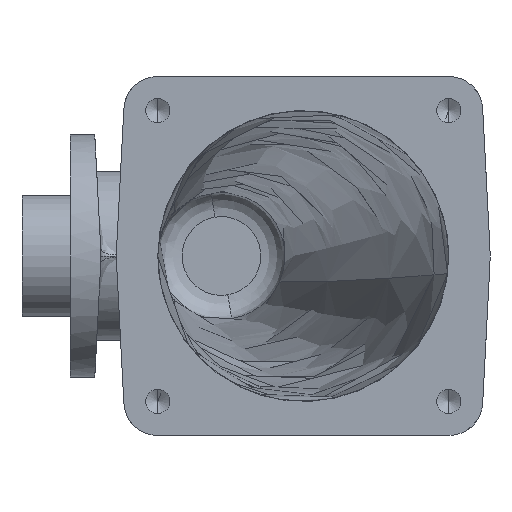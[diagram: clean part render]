
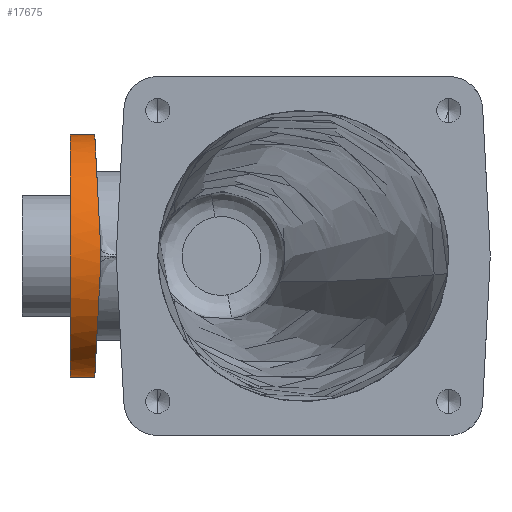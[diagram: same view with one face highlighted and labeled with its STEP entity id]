
A CAD part, left-side view. The second image highlights one B-rep face of the part: STEP entity #17675.
In plain terms, the highlighted cylindrical face has radius 25 mm (diameter 50 mm), a partial arc.
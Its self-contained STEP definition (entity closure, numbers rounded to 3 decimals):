
#18 = AXIS2_PLACEMENT_3D ( 'NONE', #14820, #1231, #7260 ) ;
#429 = ORIENTED_EDGE ( 'NONE', *, *, #4941, .T. ) ;
#842 = LINE ( 'NONE', #6870, #12087 ) ;
#919 = VERTEX_POINT ( 'NONE', #3242 ) ;
#1096 = CARTESIAN_POINT ( 'NONE',  ( -135.967, -0.038, -24.278 ) ) ;
#1231 = DIRECTION ( 'NONE',  ( 0., 1., 0. ) ) ;
#1330 = CARTESIAN_POINT ( 'NONE',  ( -136.03, -0.039, -24.262 ) ) ;
#1415 = VERTEX_POINT ( 'NONE', #12326 ) ;
#1520 = CARTESIAN_POINT ( 'NONE',  ( -135.848, 0., 24.306 ) ) ;
#1735 = DIRECTION ( 'NONE',  ( 0., -1., 0. ) ) ;
#2647 = ORIENTED_EDGE ( 'NONE', *, *, #15555, .T. ) ;
#2770 = CARTESIAN_POINT ( 'NONE',  ( -130., 5., -25. ) ) ;
#3179 = CARTESIAN_POINT ( 'NONE',  ( -130., 0., -25. ) ) ;
#3196 = VECTOR ( 'NONE', #19164, 1000. ) ;
#3221 = FACE_OUTER_BOUND ( 'NONE', #11191, .T. ) ;
#3242 = CARTESIAN_POINT ( 'NONE',  ( -130., 5., 25. ) ) ;
#3505 = VERTEX_POINT ( 'NONE', #7084 ) ;
#3766 = CARTESIAN_POINT ( 'NONE',  ( -147.001, -0.182, -21.535 ) ) ;
#3923 = DIRECTION ( 'NONE',  ( 0., 1., 0. ) ) ;
#4013 = CARTESIAN_POINT ( 'NONE',  ( -135.967, -0.038, 24.278 ) ) ;
#4584 = CARTESIAN_POINT ( 'NONE',  ( -154.951, -1.228, 1.57 ) ) ;
#4596 = EDGE_CURVE ( 'NONE', #5461, #1415, #12446, .T. ) ;
#4741 = CARTESIAN_POINT ( 'NONE',  ( -130., 0., 0. ) ) ;
#4941 = EDGE_CURVE ( 'NONE', #14904, #10670, #8654, .T. ) ;
#5085 = CARTESIAN_POINT ( 'NONE',  ( -135.848, 0., -24.306 ) ) ;
#5206 = CARTESIAN_POINT ( 'NONE',  ( -154.951, -1.228, -1.57 ) ) ;
#5257 = CARTESIAN_POINT ( 'NONE',  ( -154.241, -0.637, 12.852 ) ) ;
#5461 = VERTEX_POINT ( 'NONE', #5206 ) ;
#5517 = EDGE_CURVE ( 'NONE', #10894, #919, #18828, .T. ) ;
#6058 = CARTESIAN_POINT ( 'NONE',  ( -154.951, -1.228, -1.57 ) ) ;
#6362 = EDGE_CURVE ( 'NONE', #10670, #5461, #6423, .T. ) ;
#6423 =( BOUNDED_CURVE ( )  B_SPLINE_CURVE ( 3, ( #17359, #3766, #9787, #15865 ),
 .UNSPECIFIED., .F., .F. ) 
 B_SPLINE_CURVE_WITH_KNOTS ( ( 4, 4 ),
 ( 0.244, 1.508 ),
 .UNSPECIFIED. ) 
 CURVE ( )  GEOMETRIC_REPRESENTATION_ITEM ( )  RATIONAL_B_SPLINE_CURVE ( ( 1., 0.871, 0.871, 1. ) ) 
 REPRESENTATION_ITEM ( '' )  );
#6777 = AXIS2_PLACEMENT_3D ( 'NONE', #15327, #1735, #7760 ) ;
#6870 = CARTESIAN_POINT ( 'NONE',  ( -130., 5., 25. ) ) ;
#6874 = ORIENTED_EDGE ( 'NONE', *, *, #10568, .T. ) ;
#6946 = EDGE_CURVE ( 'NONE', #13478, #14904, #12673, .T. ) ;
#7041 = LINE ( 'NONE', #13107, #3196 ) ;
#7084 = CARTESIAN_POINT ( 'NONE',  ( -136.03, -0.039, 24.262 ) ) ;
#7126 = CARTESIAN_POINT ( 'NONE',  ( -136.03, -0.039, -24.262 ) ) ;
#7260 = DIRECTION ( 'NONE',  ( 0., 0., 1. ) ) ;
#7721 = AXIS2_PLACEMENT_3D ( 'NONE', #17505, #3923, #9946 ) ;
#7760 = DIRECTION ( 'NONE',  ( 0., 0., -1. ) ) ;
#8610 = CARTESIAN_POINT ( 'NONE',  ( -135.848, 0., -24.306 ) ) ;
#8654 = B_SPLINE_CURVE_WITH_KNOTS ( 'NONE', 3,
 ( #8610, #14680, #1096, #7126 ),
 .UNSPECIFIED., .F., .F.,
 ( 4, 4 ),
 ( 0., 0. ),
 .UNSPECIFIED. ) ;
#9248 = CYLINDRICAL_SURFACE ( 'NONE', #6777, 25. ) ;
#9677 = ORIENTED_EDGE ( 'NONE', *, *, #10491, .F. ) ;
#9787 = CARTESIAN_POINT ( 'NONE',  ( -154.241, -0.637, -12.852 ) ) ;
#9906 = AXIS2_PLACEMENT_3D ( 'NONE', #4741, #10775, #16848 ) ;
#9946 = DIRECTION ( 'NONE',  ( 0., 0., 1. ) ) ;
#10036 = CARTESIAN_POINT ( 'NONE',  ( -135.906, -0.025, 24.292 ) ) ;
#10491 = EDGE_CURVE ( 'NONE', #919, #11589, #842, .T. ) ;
#10568 = EDGE_CURVE ( 'NONE', #3505, #19617, #15871, .T. ) ;
#10670 = VERTEX_POINT ( 'NONE', #1330 ) ;
#10775 = DIRECTION ( 'NONE',  ( 0., 1., 0. ) ) ;
#10894 = VERTEX_POINT ( 'NONE', #2770 ) ;
#11191 = EDGE_LOOP ( 'NONE', ( #16439, #6874, #2647, #9677, #13012, #19067, #14903, #429, #15824, #12790 ) ) ;
#11294 = CARTESIAN_POINT ( 'NONE',  ( -147.001, -0.182, 21.535 ) ) ;
#11589 = VERTEX_POINT ( 'NONE', #14969 ) ;
#12087 = VECTOR ( 'NONE', #12928, 1000. ) ;
#12108 = CARTESIAN_POINT ( 'NONE',  ( -155.017, -1.283, -0.523 ) ) ;
#12326 = CARTESIAN_POINT ( 'NONE',  ( -154.951, -1.228, 1.57 ) ) ;
#12446 = B_SPLINE_CURVE_WITH_KNOTS ( 'NONE', 3,
 ( #6058, #12108, #18176, #4584 ),
 .UNSPECIFIED., .F., .F.,
 ( 4, 4 ),
 ( 0., 0.003 ),
 .UNSPECIFIED. ) ;
#12673 = CIRCLE ( 'NONE', #18, 25. ) ;
#12790 = ORIENTED_EDGE ( 'NONE', *, *, #4596, .T. ) ;
#12928 = DIRECTION ( 'NONE',  ( 0., -1., 0. ) ) ;
#13012 = ORIENTED_EDGE ( 'NONE', *, *, #5517, .F. ) ;
#13107 = CARTESIAN_POINT ( 'NONE',  ( -130., 5., -25. ) ) ;
#13254 = EDGE_CURVE ( 'NONE', #10894, #13478, #7041, .T. ) ;
#13478 = VERTEX_POINT ( 'NONE', #3179 ) ;
#14680 = CARTESIAN_POINT ( 'NONE',  ( -135.906, -0.025, -24.292 ) ) ;
#14820 = CARTESIAN_POINT ( 'NONE',  ( -130., 0., 0. ) ) ;
#14903 = ORIENTED_EDGE ( 'NONE', *, *, #6946, .T. ) ;
#14904 = VERTEX_POINT ( 'NONE', #5085 ) ;
#14969 = CARTESIAN_POINT ( 'NONE',  ( -130., 0., 25. ) ) ;
#15327 = CARTESIAN_POINT ( 'NONE',  ( -130., 5., 0. ) ) ;
#15555 = EDGE_CURVE ( 'NONE', #19617, #11589, #18478, .T. ) ;
#15824 = ORIENTED_EDGE ( 'NONE', *, *, #6362, .T. ) ;
#15865 = CARTESIAN_POINT ( 'NONE',  ( -154.951, -1.228, -1.57 ) ) ;
#15871 = B_SPLINE_CURVE_WITH_KNOTS ( 'NONE', 3,
 ( #17601, #4013, #10036, #16112 ),
 .UNSPECIFIED., .F., .F.,
 ( 4, 4 ),
 ( 0., 0. ),
 .UNSPECIFIED. ) ;
#16112 = CARTESIAN_POINT ( 'NONE',  ( -135.848, 0., 24.306 ) ) ;
#16439 = ORIENTED_EDGE ( 'NONE', *, *, #16531, .T. ) ;
#16531 = EDGE_CURVE ( 'NONE', #1415, #3505, #17623, .T. ) ;
#16848 = DIRECTION ( 'NONE',  ( 0., 0., 1. ) ) ;
#17359 = CARTESIAN_POINT ( 'NONE',  ( -136.03, -0.039, -24.262 ) ) ;
#17370 = CARTESIAN_POINT ( 'NONE',  ( -136.03, -0.039, 24.262 ) ) ;
#17505 = CARTESIAN_POINT ( 'NONE',  ( -130., 5., 0. ) ) ;
#17601 = CARTESIAN_POINT ( 'NONE',  ( -136.03, -0.039, 24.262 ) ) ;
#17623 =( BOUNDED_CURVE ( )  B_SPLINE_CURVE ( 3, ( #18858, #5257, #11294, #17370 ),
 .UNSPECIFIED., .F., .F. ) 
 B_SPLINE_CURVE_WITH_KNOTS ( ( 4, 4 ),
 ( 4.775, 6.04 ),
 .UNSPECIFIED. ) 
 CURVE ( )  GEOMETRIC_REPRESENTATION_ITEM ( )  RATIONAL_B_SPLINE_CURVE ( ( 1., 0.871, 0.871, 1. ) ) 
 REPRESENTATION_ITEM ( '' )  );
#17675 = ADVANCED_FACE ( 'NONE', ( #3221 ), #9248, .T. ) ;
#18176 = CARTESIAN_POINT ( 'NONE',  ( -155.017, -1.283, 0.523 ) ) ;
#18478 = CIRCLE ( 'NONE', #9906, 25. ) ;
#18828 = CIRCLE ( 'NONE', #7721, 25. ) ;
#18858 = CARTESIAN_POINT ( 'NONE',  ( -154.951, -1.228, 1.57 ) ) ;
#19067 = ORIENTED_EDGE ( 'NONE', *, *, #13254, .T. ) ;
#19164 = DIRECTION ( 'NONE',  ( 0., -1., 0. ) ) ;
#19617 = VERTEX_POINT ( 'NONE', #1520 ) ;
